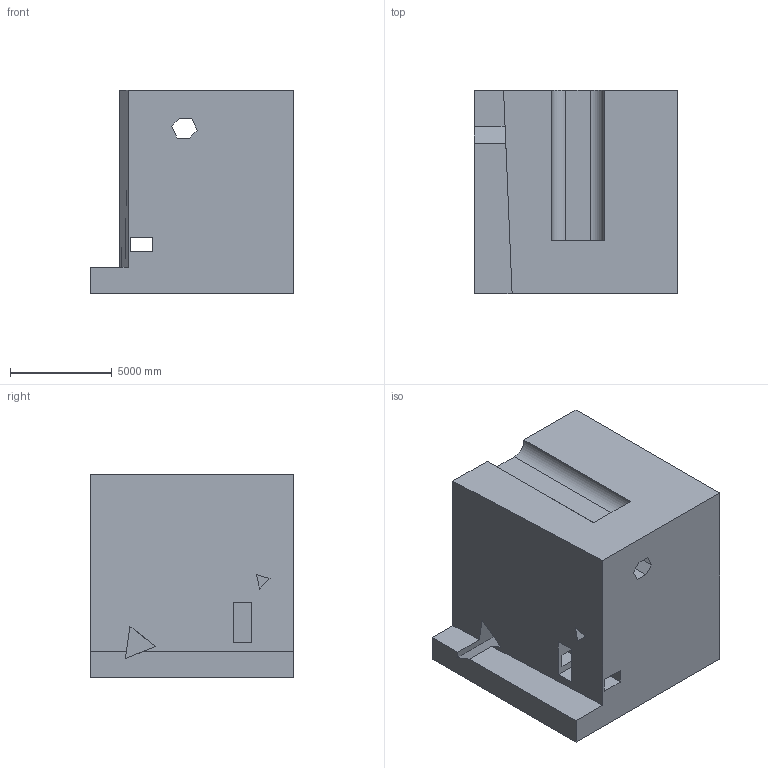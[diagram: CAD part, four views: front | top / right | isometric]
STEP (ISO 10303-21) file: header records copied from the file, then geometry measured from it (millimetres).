
FILE_DESCRIPTION (( 'STEP AP203' ), '1' );
FILE_NAME ('92.STEP', '2022-09-01T12:07:41', ( 'user' ), ( '' ), 'SwSTEP 2.0', 'SolidWorks 2021', '' );
FILE_SCHEMA (( 'CONFIG_CONTROL_DESIGN' ));
Length unit declared in the file: centimetre
Products named in the file (1): 92
Bounding box: 10000 x 10000 x 10000 mm (x, y, z)
Volume: 804512902887.2 mm3; surface area: 716377035.2 mm2
Topology: 1 solids, 1 shells, 57 faces, 165 edges, 110 vertices
Faces by surface type: plane 52, cylinder 5
Entity records: 1944 total; most frequent: CARTESIAN_POINT 333, ORIENTED_EDGE 330, DIRECTION 293, EDGE_CURVE 165, VECTOR 153, LINE 153, VERTEX_POINT 110, AXIS2_PLACEMENT_3D 70
